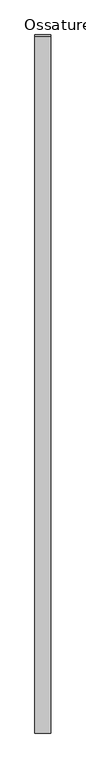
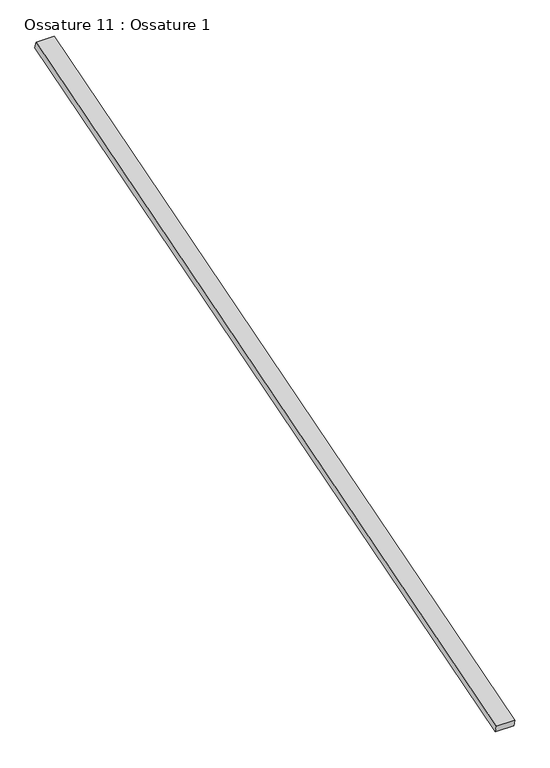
"""IFC4 building model written with IfcOpenShell, lengths in millimetres: beam geometry, Ossature 11 : Ossature 1."""

from ifc_helpers import new_model, si_unit, frame, origin, place, context, project, spatial, polyline, outline, extrude, source, transform, mapped, element, save


def ossature_11_ossature_1_6b7c4963(model_context):
    return source(origin(), model_context, "Body", "SweptSolid", [
        extrude(outline(polyline([(0.0, 0.0), (0.0, -4543.0299679), (-100.0, -4543.0299679), (-100.0, 0.0), (0.0, 0.0)])), frame((2931.4466393, -833.3913565, 8153.6336115), z_axis=(0.0, -0.28734788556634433, 0.9578262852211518), x_axis=(-1.0, 0.0, 0.0)), (0.0, 0.0, 1.0), 40.0),
    ])


if __name__ == "__main__":
    model = new_model("IFC4")
    model_context = context("Model", 3, world=origin())
    ifc_project = project(units=[si_unit("LENGTHUNIT", "METRE", prefix="MILLI")], contexts=[model_context])
    site = spatial("IfcSite", under=ifc_project)
    building = spatial("IfcBuilding", under=site)
    placement = place(None, origin())
    ossature_11_ossature_1_shape = ossature_11_ossature_1_6b7c4963(model_context)
    element("IfcBeam", 1, ObjectType="Ossature 11 : Ossature 1", at=placement, inside=building, context=model_context, shape_type="MappedRepresentation", body=[
        mapped(ossature_11_ossature_1_shape, transform((0.0, 0.0, 0.0), x_axis=(1.0, 0.0, 0.0), y_axis=(0.0, 1.0, 0.0), z_axis=(0.0, 0.0, 1.0))),
    ])
    save(model, "model.ifc")
